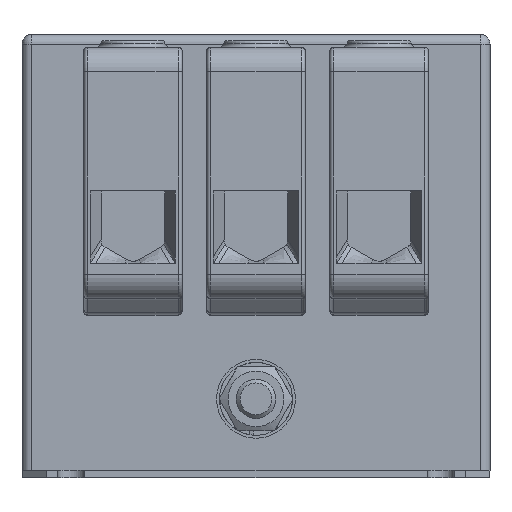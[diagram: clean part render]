
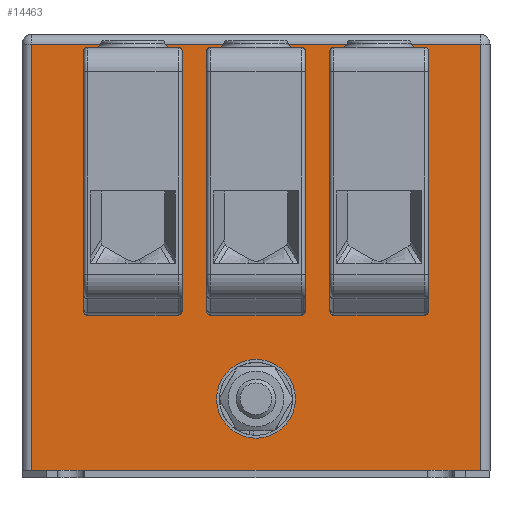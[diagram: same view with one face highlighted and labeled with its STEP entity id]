
A CAD part, left-side view. The second image highlights one B-rep face of the part: STEP entity #14463.
In plain terms, the highlighted planar face has unit normal (-1, 0, 0).
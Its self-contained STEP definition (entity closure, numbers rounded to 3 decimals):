
#8656=CARTESIAN_POINT('',(-100.0,-15.,-56.2));
#8657=VERTEX_POINT('',#8656);
#8658=CARTESIAN_POINT('',(-100.0,-35.,-56.2));
#8659=VERTEX_POINT('',#8658);
#8660=CARTESIAN_POINT('',(-100.0,-15.,-56.2));
#8661=DIRECTION('',(0.0,-1.0,0.0));
#8662=VECTOR('',#8661,20.);
#8663=LINE('',#8660,#8662);
#8664=EDGE_CURVE('',#8657,#8659,#8663,.T.);
#8708=CARTESIAN_POINT('',(-100.0,-35.,-3.4));
#8709=VERTEX_POINT('',#8708);
#8717=CARTESIAN_POINT('',(-100.0,-15.,-3.4));
#8718=VERTEX_POINT('',#8717);
#8719=CARTESIAN_POINT('',(-100.0,-15.,-3.4));
#8720=DIRECTION('',(0.0,-1.0,0.0));
#8721=VECTOR('',#8720,20.);
#8722=LINE('',#8719,#8721);
#8723=EDGE_CURVE('',#8718,#8709,#8722,.T.);
#9365=CARTESIAN_POINT('',(-100.0,-15.,-56.2));
#9366=DIRECTION('',(0.0,0.0,1.0));
#9367=VECTOR('',#9366,52.8);
#9368=LINE('',#9365,#9367);
#9369=EDGE_CURVE('',#8657,#8718,#9368,.T.);
#9395=CARTESIAN_POINT('',(-100.0,-35.0,-3.4));
#9396=DIRECTION('',(0.0,0.0,-1.0));
#9397=VECTOR('',#9396,52.8);
#9398=LINE('',#9395,#9397);
#9399=EDGE_CURVE('',#8709,#8659,#9398,.T.);
#10600=CARTESIAN_POINT('',(-100.0,10.,-56.2));
#10601=VERTEX_POINT('',#10600);
#10602=CARTESIAN_POINT('',(-100.0,-10.,-56.2));
#10603=VERTEX_POINT('',#10602);
#10604=CARTESIAN_POINT('',(-100.0,10.,-56.2));
#10605=DIRECTION('',(0.0,-1.0,0.0));
#10606=VECTOR('',#10605,20.0);
#10607=LINE('',#10604,#10606);
#10608=EDGE_CURVE('',#10601,#10603,#10607,.T.);
#10652=CARTESIAN_POINT('',(-100.0,-10.,-3.4));
#10653=VERTEX_POINT('',#10652);
#10661=CARTESIAN_POINT('',(-100.0,10.,-3.4));
#10662=VERTEX_POINT('',#10661);
#10663=CARTESIAN_POINT('',(-100.0,10.,-3.4));
#10664=DIRECTION('',(0.0,-1.0,0.0));
#10665=VECTOR('',#10664,20.0);
#10666=LINE('',#10663,#10665);
#10667=EDGE_CURVE('',#10662,#10653,#10666,.T.);
#11309=CARTESIAN_POINT('',(-100.0,10.,-56.2));
#11310=DIRECTION('',(0.0,0.0,1.0));
#11311=VECTOR('',#11310,52.8);
#11312=LINE('',#11309,#11311);
#11313=EDGE_CURVE('',#10601,#10662,#11312,.T.);
#11339=CARTESIAN_POINT('',(-100.0,-10.,-3.4));
#11340=DIRECTION('',(0.0,0.0,-1.0));
#11341=VECTOR('',#11340,52.8);
#11342=LINE('',#11339,#11341);
#11343=EDGE_CURVE('',#10653,#10603,#11342,.T.);
#12544=CARTESIAN_POINT('',(-100.0,35.,-56.2));
#12545=VERTEX_POINT('',#12544);
#12546=CARTESIAN_POINT('',(-100.0,15.,-56.2));
#12547=VERTEX_POINT('',#12546);
#12548=CARTESIAN_POINT('',(-100.0,35.0,-56.2));
#12549=DIRECTION('',(0.0,-1.0,0.0));
#12550=VECTOR('',#12549,20.);
#12551=LINE('',#12548,#12550);
#12552=EDGE_CURVE('',#12545,#12547,#12551,.T.);
#12596=CARTESIAN_POINT('',(-100.0,15.,-3.4));
#12597=VERTEX_POINT('',#12596);
#12605=CARTESIAN_POINT('',(-100.0,35.,-3.4));
#12606=VERTEX_POINT('',#12605);
#12607=CARTESIAN_POINT('',(-100.0,35.0,-3.4));
#12608=DIRECTION('',(0.0,-1.0,0.0));
#12609=VECTOR('',#12608,20.);
#12610=LINE('',#12607,#12609);
#12611=EDGE_CURVE('',#12606,#12597,#12610,.T.);
#13253=CARTESIAN_POINT('',(-100.0,35.0,-56.2));
#13254=DIRECTION('',(0.0,0.0,1.0));
#13255=VECTOR('',#13254,52.8);
#13256=LINE('',#13253,#13255);
#13257=EDGE_CURVE('',#12545,#12606,#13256,.T.);
#13283=CARTESIAN_POINT('',(-100.0,15.,-3.4));
#13284=DIRECTION('',(0.0,0.0,-1.0));
#13285=VECTOR('',#13284,52.8);
#13286=LINE('',#13283,#13285);
#13287=EDGE_CURVE('',#12597,#12547,#13286,.T.);
#14388=CARTESIAN_POINT('',(-100.0,0.0,-80.325));
#14389=VERTEX_POINT('',#14388);
#14390=CARTESIAN_POINT('',(-100.0,0.0,-74.0));
#14391=DIRECTION('',(1.0,0.0,0.0));
#14392=DIRECTION('',(0.0,0.0,-1.0));
#14393=AXIS2_PLACEMENT_3D('',#14390,#14391,#14392);
#14394=CIRCLE('',#14393,6.325);
#14395=EDGE_CURVE('',#14389,#14389,#14394,.T.);
#14403=CARTESIAN_POINT('',(-100.0,47.5,0.0));
#14404=DIRECTION('',(-1.0,0.0,0.0));
#14405=DIRECTION('',(0.0,0.0,1.0));
#14406=AXIS2_PLACEMENT_3D('',#14403,#14404,#14405);
#14407=PLANE('',#14406);
#14408=CARTESIAN_POINT('',(-100.0,45.5,-88.5));
#14409=VERTEX_POINT('',#14408);
#14410=CARTESIAN_POINT('',(-100.0,45.5,-2.0));
#14411=VERTEX_POINT('',#14410);
#14412=CARTESIAN_POINT('',(-100.0,45.5,-88.5));
#14413=DIRECTION('',(0.0,0.0,1.0));
#14414=VECTOR('',#14413,86.5);
#14415=LINE('',#14412,#14414);
#14416=EDGE_CURVE('',#14409,#14411,#14415,.T.);
#14417=ORIENTED_EDGE('',*,*,#14416,.F.);
#14418=CARTESIAN_POINT('',(-100.0,-45.5,-88.5));
#14419=VERTEX_POINT('',#14418);
#14420=CARTESIAN_POINT('',(-100.0,45.5,-88.5));
#14421=DIRECTION('',(0.0,-1.0,0.0));
#14422=VECTOR('',#14421,91.0);
#14423=LINE('',#14420,#14422);
#14424=EDGE_CURVE('',#14409,#14419,#14423,.T.);
#14425=ORIENTED_EDGE('',*,*,#14424,.T.);
#14426=CARTESIAN_POINT('',(-100.0,-45.5,-2.0));
#14427=VERTEX_POINT('',#14426);
#14428=CARTESIAN_POINT('',(-100.0,-45.5,-2.0));
#14429=DIRECTION('',(0.0,0.0,-1.0));
#14430=VECTOR('',#14429,86.5);
#14431=LINE('',#14428,#14430);
#14432=EDGE_CURVE('',#14427,#14419,#14431,.T.);
#14433=ORIENTED_EDGE('',*,*,#14432,.F.);
#14434=CARTESIAN_POINT('',(-100.0,45.5,-2.0));
#14435=DIRECTION('',(0.0,-1.0,0.0));
#14436=VECTOR('',#14435,91.);
#14437=LINE('',#14434,#14436);
#14438=EDGE_CURVE('',#14411,#14427,#14437,.T.);
#14439=ORIENTED_EDGE('',*,*,#14438,.F.);
#14440=EDGE_LOOP('',(#14417,#14425,#14433,#14439));
#14441=FACE_OUTER_BOUND('',#14440,.T.);
#14442=ORIENTED_EDGE('',*,*,#8723,.T.);
#14443=ORIENTED_EDGE('',*,*,#9399,.T.);
#14444=ORIENTED_EDGE('',*,*,#8664,.F.);
#14445=ORIENTED_EDGE('',*,*,#9369,.T.);
#14446=EDGE_LOOP('',(#14442,#14443,#14444,#14445));
#14447=FACE_BOUND('',#14446,.T.);
#14448=ORIENTED_EDGE('',*,*,#10667,.T.);
#14449=ORIENTED_EDGE('',*,*,#11343,.T.);
#14450=ORIENTED_EDGE('',*,*,#10608,.F.);
#14451=ORIENTED_EDGE('',*,*,#11313,.T.);
#14452=EDGE_LOOP('',(#14448,#14449,#14450,#14451));
#14453=FACE_BOUND('',#14452,.T.);
#14454=ORIENTED_EDGE('',*,*,#12611,.T.);
#14455=ORIENTED_EDGE('',*,*,#13287,.T.);
#14456=ORIENTED_EDGE('',*,*,#12552,.F.);
#14457=ORIENTED_EDGE('',*,*,#13257,.T.);
#14458=EDGE_LOOP('',(#14454,#14455,#14456,#14457));
#14459=FACE_BOUND('',#14458,.T.);
#14460=ORIENTED_EDGE('',*,*,#14395,.T.);
#14461=EDGE_LOOP('',(#14460));
#14462=FACE_BOUND('',#14461,.T.);
#14463=ADVANCED_FACE('',(#14441,#14447,#14453,#14459,#14462),#14407,.T.);
